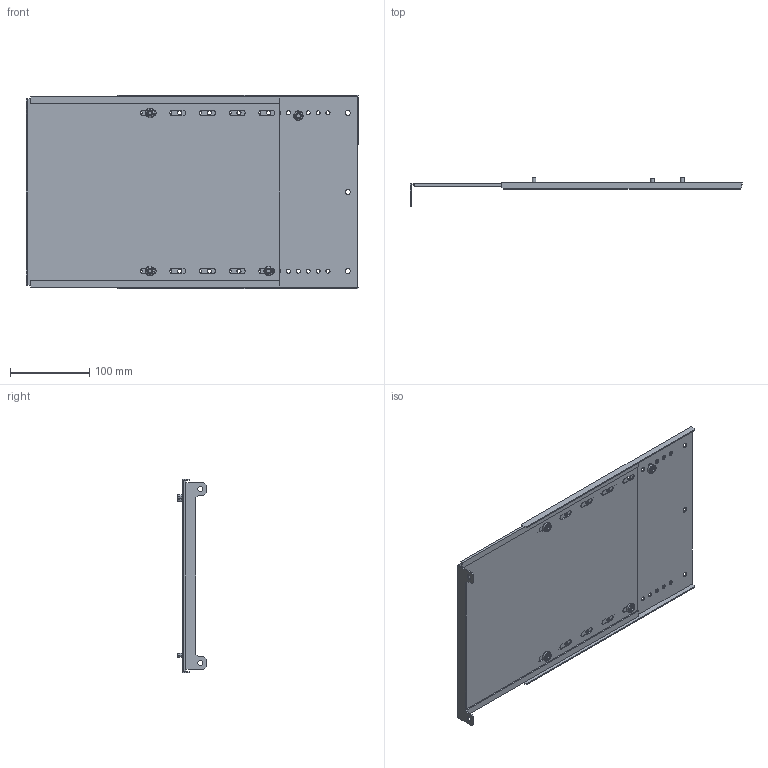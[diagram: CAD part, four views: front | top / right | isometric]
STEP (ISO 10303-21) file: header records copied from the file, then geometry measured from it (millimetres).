
FILE_DESCRIPTION (( 'STEP AP214' ), '1' );
FILE_NAME ('FO-00-SWVB-025-040 Ïåðåãîðîäêà ñåêöèîíèðîâàíèÿ âåðòèêàëüíàÿ äëÿ âåðòèêàëüíîãî øèííîãî îòñåêà 250õ400 ìì â øêàô ãëóáèíîé 800 ìì.STEP', '2025-08-06T13:28:07', ( '' ), ( '' ), 'SwSTEP 2.0', 'SolidWorks 2023', '' );
FILE_SCHEMA (( 'AUTOMOTIVE_DESIGN' ));
Length unit declared in the file: millimetre
Products named in the file (4): FO-00-SWVB-025-040 Перегородка секционирования вертикальная для вертикального шинного отсека 250х400 мм в шкаф глубиной 800 мм; Перегородка секционирования ап 250х400; Перегородка секционирования 250х400; Болты М5х250
Assembly tree (4 placements, depth 2):
  FO-00-SWVB-025-040 Перегородка секционирования вертикальная для вертикального шинного отсека 250х400 мм в шкаф глубиной 800 мм
    Перегородка секционирования ап 250х400
    Перегородка секционирования 250х400
    Болты М5х250  x2
Bounding box: 419.75 x 35.7 x 244.5 mm (x, y, z)
Volume: 245990.5 mm3; surface area: 322801.6 mm2
Topology: 6 solids, 6 shells, 298 faces, 810 edges, 532 vertices
Faces by surface type: cylinder 186, plane 88, torus 16, cone 8
Entity records: 8214 total; most frequent: DIRECTION 1482, CARTESIAN_POINT 1363, ORIENTED_EDGE 1344, EDGE_CURVE 672, AXIS2_PLACEMENT_3D 563, VERTEX_POINT 444, LINE 356, VECTOR 356
